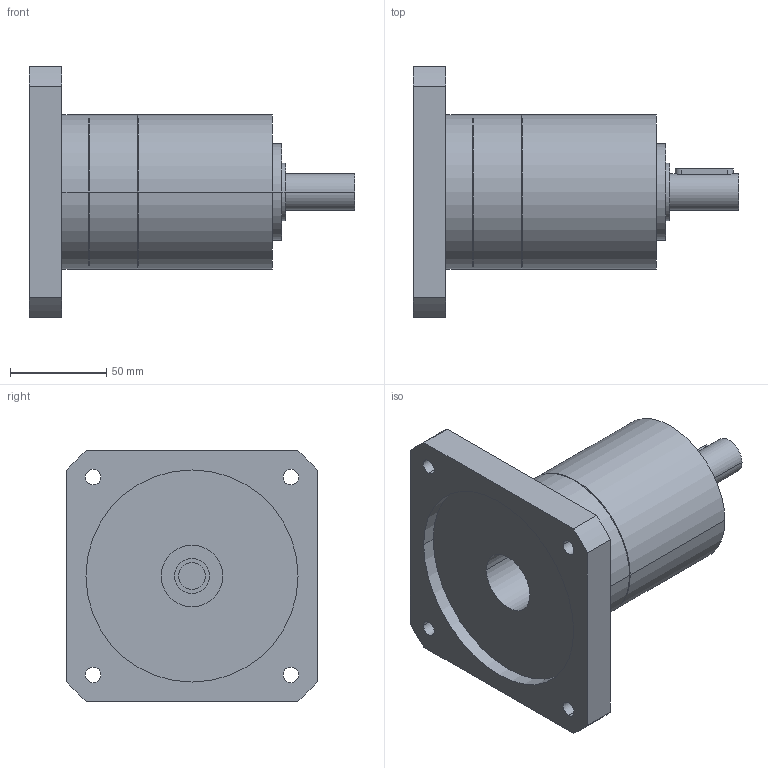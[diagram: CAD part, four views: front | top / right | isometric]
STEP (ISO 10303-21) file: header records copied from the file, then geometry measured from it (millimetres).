
FILE_DESCRIPTION(('CoCreate Modeling STEP Export'),'2;1');
FILE_NAME('GPR100_ig-3-4-5-6_19_B14_14_P18.stp','2014-08-26T10:07:13',(''),(''),'CoCreate Modeling STEP processor for AP214 (Solid Model)','CoCreate Modeling 16.00C 25-Feb-2009 (C) Parametric Technology GmbH','');
FILE_SCHEMA(('AUTOMOTIVE_DESIGN { 1 0 10303 214 1 1 1 1 }'));
Length unit declared in the file: millimetre
Products named in the file (2): GPR100_ig-3-4-5-6_19_B14_14_P18
Assembly tree (1 placements, depth 2):
  GPR100_ig-3-4-5-6_19_B14_14_P18
    GPR100_ig-3-4-5-6_19_B14_14_P18
Bounding box: 169 x 130 x 130 mm (x, y, z)
Volume: 759479.7 mm3; surface area: 82037.9 mm2
Topology: 1 solids, 1 shells, 73 faces, 196 edges, 138 vertices
Faces by surface type: cylinder 44, plane 23, cone 6
Entity records: 2014 total; most frequent: ORIENTED_EDGE 388, CARTESIAN_POINT 372, DIRECTION 272, EDGE_CURVE 194, VERTEX_POINT 138, AXIS2_PLACEMENT_3D 102, EDGE_LOOP 96, FACE_OUTER_BOUND 73
